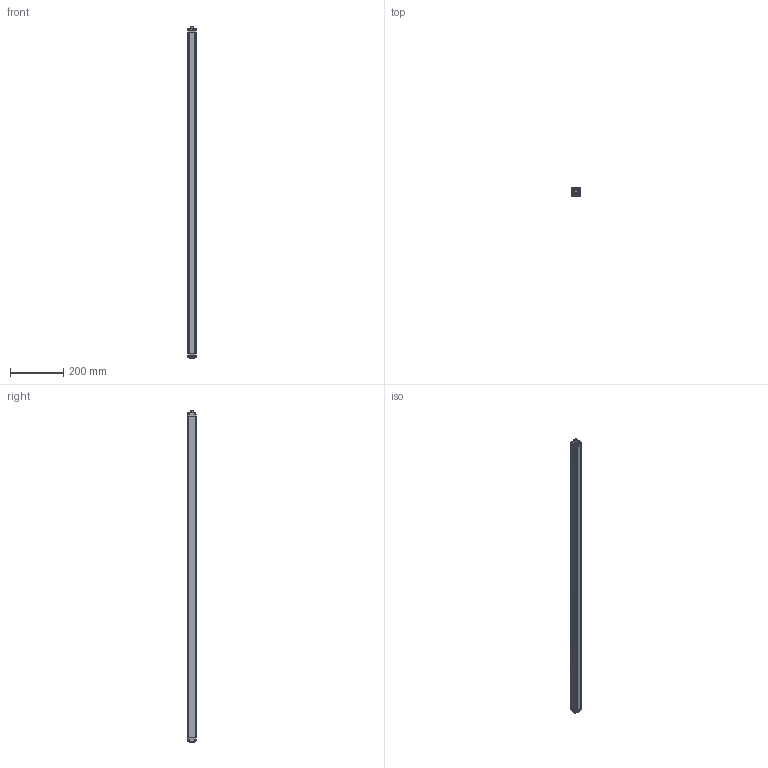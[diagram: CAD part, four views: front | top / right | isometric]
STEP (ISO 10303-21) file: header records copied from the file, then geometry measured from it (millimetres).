
FILE_DESCRIPTION(/* description */ (''),/* implementation_level */ '2;1');
FILE_NAME(/* name */ 'TYG10-118.stp',/* time_stamp */ '2024-11-07T15:15:14+08:00',/* author */ (''),/* organization */ (''),/* preprocessor_version */ 'ST-DEVELOPER v16',/* originating_system */ 'SIEMENS PLM Software NX 11.0',/* authorisation */ '');
FILE_SCHEMA (('AUTOMOTIVE_DESIGN { 1 0 10303 214 3 1 1 1 }'));
Length unit declared in the file: millimetre
Products named in the file (5): YAKELI808080; B-0823818181; K-0823828282; 20230331838383; TYG10-_stp
Assembly tree (4 placements, depth 2):
  TYG10-_stp
    20230331838383
    K-0823828282
    B-0823818181
    YAKELI808080
Bounding box: 31.87 x 33.07 x 1243 mm (x, y, z)
Volume: 412781.2 mm3; surface area: 431569.4 mm2
Topology: 4 solids, 4 shells, 629 faces, 1887 edges, 1256 vertices
Faces by surface type: plane 346, cylinder 203, cone 36, sphere 16, torus 16, extrusion 8, bspline 4
Entity records: 21911 total; most frequent: CARTESIAN_POINT 4509, ORIENTED_EDGE 3758, DIRECTION 3553, EDGE_CURVE 1879, VERTEX_POINT 1256, AXIS2_PLACEMENT_3D 1188, VECTOR 1177, LINE 1169
